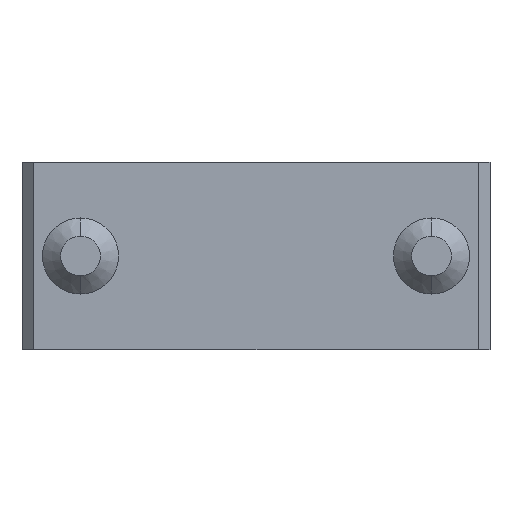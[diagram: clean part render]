
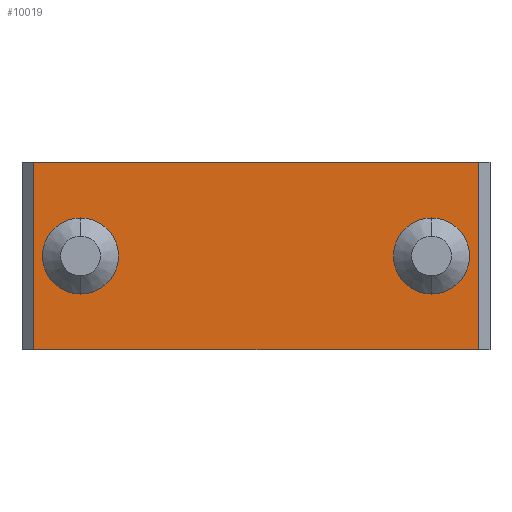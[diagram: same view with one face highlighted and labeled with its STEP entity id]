
A CAD part, front view. The second image highlights one B-rep face of the part: STEP entity #10019.
In plain terms, the highlighted planar face has unit normal (0, -1, 0).
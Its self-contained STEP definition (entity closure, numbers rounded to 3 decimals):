
#381 = ORIENTED_EDGE ( 'NONE', *, *, #11650, .F. ) ;
#554 = VECTOR ( 'NONE', #3211, 1000. ) ;
#889 = VERTEX_POINT ( 'NONE', #15570 ) ;
#1098 = LINE ( 'NONE', #1486, #554 ) ;
#1486 = CARTESIAN_POINT ( 'NONE',  ( -71.909, 13.955, 0. ) ) ;
#1587 = CARTESIAN_POINT ( 'NONE',  ( -33.909, 13.955, 8. ) ) ;
#1792 = DIRECTION ( 'NONE',  ( 0., -1., 0. ) ) ;
#2405 = VECTOR ( 'NONE', #20514, 1000. ) ;
#2555 = DIRECTION ( 'NONE',  ( 0., 1., 0. ) ) ;
#2621 = PLANE ( 'NONE',  #18491 ) ;
#2708 = DIRECTION ( 'NONE',  ( 0., -1., 0. ) ) ;
#3153 = DIRECTION ( 'NONE',  ( -1., 0., 0. ) ) ;
#3185 = ORIENTED_EDGE ( 'NONE', *, *, #18948, .T. ) ;
#3206 = EDGE_CURVE ( 'NONE', #20605, #17625, #22076, .T. ) ;
#3211 = DIRECTION ( 'NONE',  ( 0., 0., -1. ) ) ;
#3297 = EDGE_LOOP ( 'NONE', ( #17022, #381 ) ) ;
#3741 = CARTESIAN_POINT ( 'NONE',  ( -71.909, 13.955, 8. ) ) ;
#4512 = LINE ( 'NONE', #15097, #9068 ) ;
#4542 = EDGE_LOOP ( 'NONE', ( #12693, #3185, #10906, #12983 ) ) ;
#4641 = EDGE_CURVE ( 'NONE', #4664, #889, #13354, .T. ) ;
#4664 = VERTEX_POINT ( 'NONE', #21853 ) ;
#4722 = CARTESIAN_POINT ( 'NONE',  ( -72.909, 13.955, -8. ) ) ;
#4770 = EDGE_CURVE ( 'NONE', #889, #10545, #11488, .T. ) ;
#4791 = AXIS2_PLACEMENT_3D ( 'NONE', #12749, #2555, #14475 ) ;
#4924 = CARTESIAN_POINT ( 'NONE',  ( -37.909, 13.955, -3.25 ) ) ;
#5086 = CARTESIAN_POINT ( 'NONE',  ( -33.909, 13.955, 0. ) ) ;
#5114 = CARTESIAN_POINT ( 'NONE',  ( -67.909, 13.955, 0. ) ) ;
#5182 = EDGE_CURVE ( 'NONE', #10545, #18073, #4512, .T. ) ;
#6123 = CIRCLE ( 'NONE', #17967, 3.25 ) ;
#6188 = ORIENTED_EDGE ( 'NONE', *, *, #3206, .T. ) ;
#6279 = CIRCLE ( 'NONE', #6994, 3.25 ) ;
#6832 = DIRECTION ( 'NONE',  ( 0., 0., -1. ) ) ;
#6922 = EDGE_CURVE ( 'NONE', #17625, #20605, #6279, .T. ) ;
#6994 = AXIS2_PLACEMENT_3D ( 'NONE', #18878, #8628, #20619 ) ;
#7891 = CARTESIAN_POINT ( 'NONE',  ( -67.909, 13.955, -3.25 ) ) ;
#8628 = DIRECTION ( 'NONE',  ( 0., 1., 0. ) ) ;
#8821 = VECTOR ( 'NONE', #14956, 1000. ) ;
#8879 = VERTEX_POINT ( 'NONE', #7891 ) ;
#8932 = FACE_BOUND ( 'NONE', #3297, .T. ) ;
#9068 = VECTOR ( 'NONE', #3153, 1000. ) ;
#9365 = CARTESIAN_POINT ( 'NONE',  ( -37.909, 13.955, 3.25 ) ) ;
#10019 = ADVANCED_FACE ( 'NONE', ( #13464, #8932, #18035 ), #2621, .T. ) ;
#10545 = VERTEX_POINT ( 'NONE', #1587 ) ;
#10548 = VERTEX_POINT ( 'NONE', #15264 ) ;
#10906 = ORIENTED_EDGE ( 'NONE', *, *, #4641, .T. ) ;
#11488 = LINE ( 'NONE', #5086, #2405 ) ;
#11650 = EDGE_CURVE ( 'NONE', #10548, #8879, #6123, .T. ) ;
#12021 = CARTESIAN_POINT ( 'NONE',  ( -67.909, 13.955, 0. ) ) ;
#12327 = EDGE_CURVE ( 'NONE', #8879, #10548, #21847, .T. ) ;
#12693 = ORIENTED_EDGE ( 'NONE', *, *, #5182, .T. ) ;
#12749 = CARTESIAN_POINT ( 'NONE',  ( -37.909, 13.955, 0. ) ) ;
#12897 = CARTESIAN_POINT ( 'NONE',  ( -71.909, 13.955, 5. ) ) ;
#12983 = ORIENTED_EDGE ( 'NONE', *, *, #4770, .T. ) ;
#13354 = LINE ( 'NONE', #4722, #8821 ) ;
#13464 = FACE_BOUND ( 'NONE', #21154, .T. ) ;
#13736 = DIRECTION ( 'NONE',  ( 0., 0., -1. ) ) ;
#14475 = DIRECTION ( 'NONE',  ( 0., 0., -1. ) ) ;
#14611 = DIRECTION ( 'NONE',  ( 0., 0., -1. ) ) ;
#14956 = DIRECTION ( 'NONE',  ( 1., 0., 0. ) ) ;
#15097 = CARTESIAN_POINT ( 'NONE',  ( -71.909, 13.955, 8. ) ) ;
#15264 = CARTESIAN_POINT ( 'NONE',  ( -67.909, 13.955, 3.25 ) ) ;
#15570 = CARTESIAN_POINT ( 'NONE',  ( -33.909, 13.955, -8. ) ) ;
#17022 = ORIENTED_EDGE ( 'NONE', *, *, #12327, .F. ) ;
#17083 = DIRECTION ( 'NONE',  ( 0., -1., 0. ) ) ;
#17145 = ORIENTED_EDGE ( 'NONE', *, *, #6922, .T. ) ;
#17625 = VERTEX_POINT ( 'NONE', #9365 ) ;
#17967 = AXIS2_PLACEMENT_3D ( 'NONE', #5114, #17083, #6832 ) ;
#18035 = FACE_OUTER_BOUND ( 'NONE', #4542, .T. ) ;
#18073 = VERTEX_POINT ( 'NONE', #3741 ) ;
#18491 = AXIS2_PLACEMENT_3D ( 'NONE', #12897, #2708, #14611 ) ;
#18878 = CARTESIAN_POINT ( 'NONE',  ( -37.909, 13.955, 0. ) ) ;
#18948 = EDGE_CURVE ( 'NONE', #18073, #4664, #1098, .T. ) ;
#20408 = AXIS2_PLACEMENT_3D ( 'NONE', #12021, #1792, #13736 ) ;
#20514 = DIRECTION ( 'NONE',  ( 0., 0., 1. ) ) ;
#20605 = VERTEX_POINT ( 'NONE', #4924 ) ;
#20619 = DIRECTION ( 'NONE',  ( 0., 0., -1. ) ) ;
#21154 = EDGE_LOOP ( 'NONE', ( #17145, #6188 ) ) ;
#21847 = CIRCLE ( 'NONE', #20408, 3.25 ) ;
#21853 = CARTESIAN_POINT ( 'NONE',  ( -71.909, 13.955, -8. ) ) ;
#22076 = CIRCLE ( 'NONE', #4791, 3.25 ) ;
